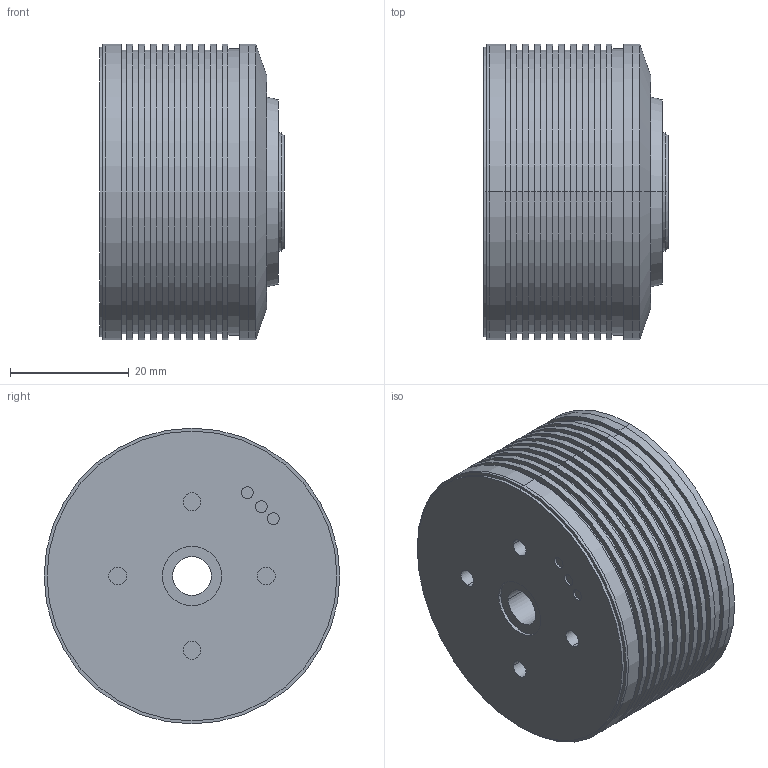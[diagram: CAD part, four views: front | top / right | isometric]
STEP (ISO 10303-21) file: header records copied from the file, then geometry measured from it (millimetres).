
FILE_DESCRIPTION((''),'2;1');
FILE_NAME('G35','2020-09-27T',('Administrator'),(''),'PRO/ENGINEER BY PARAMETRIC TECHNOLOGY CORPORATION, 2013040','PRO/ENGINEER BY PARAMETRIC TECHNOLOGY CORPORATION, 2013040','');
FILE_SCHEMA(('CONFIG_CONTROL_DESIGN'));
Length unit declared in the file: millimetre
Products named in the file (1): G35
Bounding box: 31.1 x 49.8 x 49.8 mm (x, y, z)
Volume: 52406.5 mm3; surface area: 12262.8 mm2
Topology: 1 solids, 1 shells, 125 faces, 250 edges, 164 vertices
Faces by surface type: cylinder 80, plane 39, cone 6
Entity records: 3366 total; most frequent: DIRECTION 664, CARTESIAN_POINT 539, ORIENTED_EDGE 500, AXIS2_PLACEMENT_3D 289, EDGE_CURVE 250, VERTEX_POINT 164, EDGE_LOOP 164, CIRCLE 164
